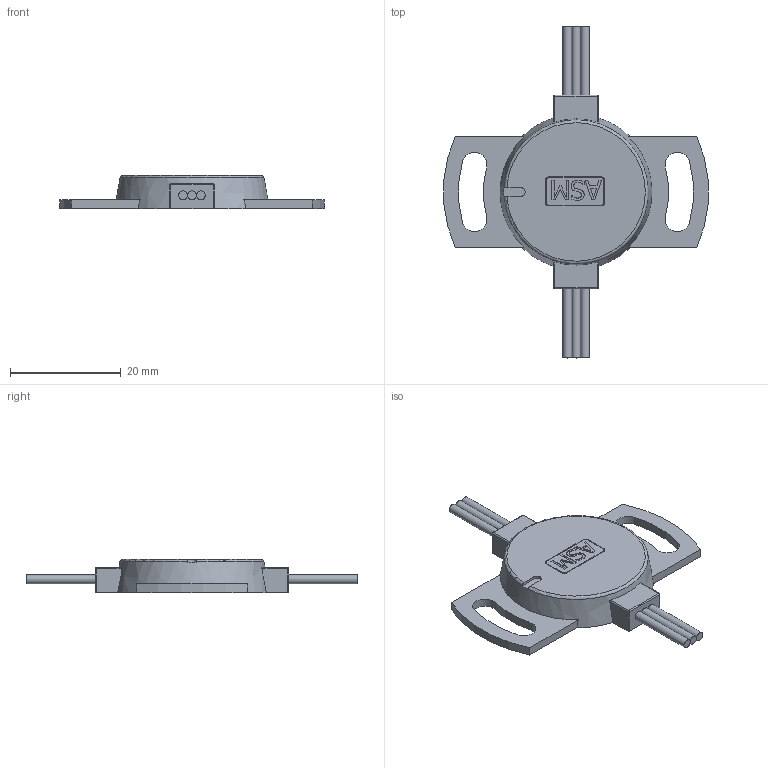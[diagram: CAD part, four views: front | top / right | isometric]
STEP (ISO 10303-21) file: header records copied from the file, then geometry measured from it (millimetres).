
FILE_DESCRIPTION((''),'2;1');
FILE_NAME('K:\Daten\PRAS20R.stp','2011-06-16T17:49:15',('kamp'),(''),'Autodesk Inventor 2008','Autodesk Inventor 2008','');
FILE_SCHEMA(('AUTOMOTIVE_DESIGN { 1 0 10303 214 1 1 1 1 }'));
Length unit declared in the file: millimetre
Products named in the file (1): Bauteil10
Bounding box: 47.82 x 60 x 6 mm (x, y, z)
Volume: 4353.2 mm3; surface area: 3041.1 mm2
Topology: 1 solids, 1 shells, 138 faces, 346 edges, 221 vertices
Faces by surface type: plane 74, cylinder 35, bspline 23, sphere 4, cone 1, torus 1
Full cylindrical faces by diameter (mm): 1.59 x2, 1.6 x4
Entity records: 4329 total; most frequent: CARTESIAN_POINT 1085, ORIENTED_EDGE 654, DIRECTION 604, EDGE_CURVE 327, VERTEX_POINT 216, AXIS2_PLACEMENT_3D 207, VECTOR 190, LINE 190
